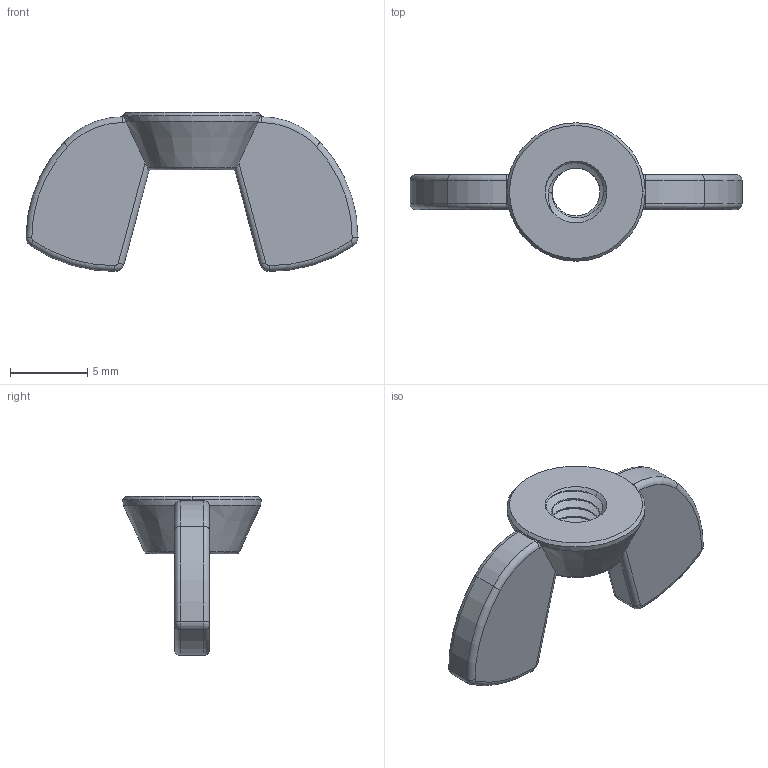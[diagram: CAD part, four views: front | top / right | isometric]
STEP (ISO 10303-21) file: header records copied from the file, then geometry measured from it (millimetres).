
FILE_DESCRIPTION (( 'STEP AP203' ), '1' );
FILE_NAME ('WING NUT M4 x 0.7mm Thread.STEP', '2017-05-02T00:58:15', ( '' ), ( '' ), 'SwSTEP 2.0', 'SolidWorks 2014', '' );
FILE_SCHEMA (( 'CONFIG_CONTROL_DESIGN' ));
Length unit declared in the file: millimetre
Products named in the file (1): WING NUT M4 x 0.7mm Thread
Bounding box: 21.5 x 8.96 x 10.3 mm (x, y, z)
Volume: 388.9 mm3; surface area: 537.7 mm2
Topology: 1 solids, 1 shells, 89 faces, 228 edges, 141 vertices
Faces by surface type: cylinder 39, torus 22, plane 14, cone 12, bspline 2
Entity records: 3460 total; most frequent: CARTESIAN_POINT 1366, ORIENTED_EDGE 456, DIRECTION 411, EDGE_CURVE 228, AXIS2_PLACEMENT_3D 175, VERTEX_POINT 141, EDGE_LOOP 91, ADVANCED_FACE 89
